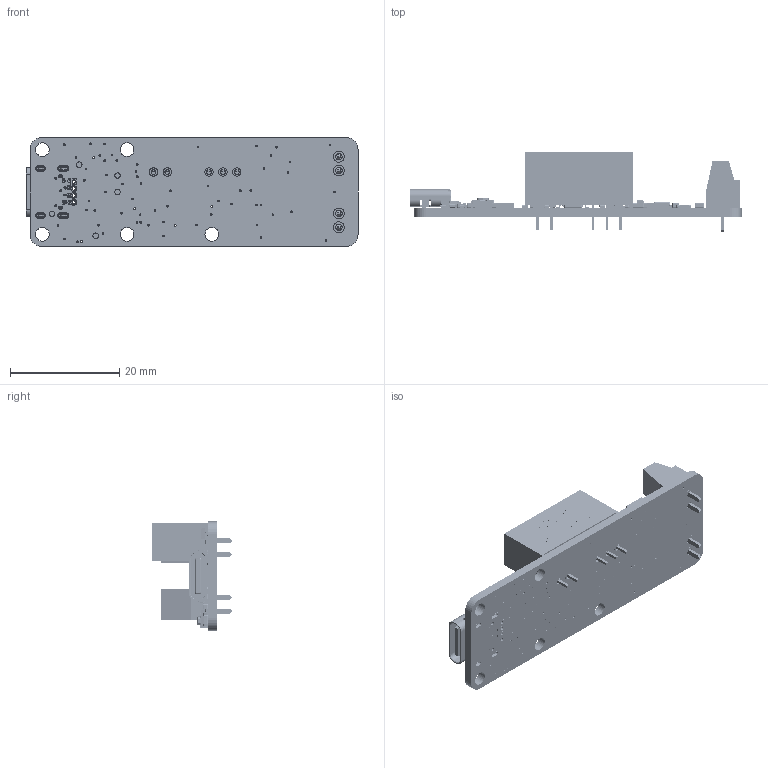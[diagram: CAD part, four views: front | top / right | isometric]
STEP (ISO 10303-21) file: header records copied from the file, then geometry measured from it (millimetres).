
FILE_DESCRIPTION (( 'STEP AP214' ), '1' );
FILE_NAME ('TX010V1C.STEP', '2025-10-10T06:00:40', ( '' ), ( '' ), 'SwSTEP 2.0', 'SolidWorks 2008', '' );
FILE_SCHEMA (( 'AUTOMOTIVE_DESIGN' ));
Length unit declared in the file: millimetre
Products named in the file (43): C2; A1; C14; C48; C24; PCB; C19; C25; IC1; R1; DAC1; P3; C18; C15; D2; C16; C21; C22; PVSS; R16; R2; Alim1; C20; L1; R13; R25; sens1; R22; R26; TX010V1C; c23; R19; R21; R18; c13; reg3; U1; YLED; SW1; REG1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
Assembly tree (68 placements, depth 2):
  PVSS
  TX010V1C
    C22  x2
    R17  x5
    R16  x4
    C16
    R19  x2
    c23
    REG1
    PCB
    sens1
    C21  x2
    DAC1
    R18  x2
    C20  x7
    C15  x2
    A1
    R1
    R25  x2
    D2  x2
    USB1
    C48  x2
    Alim1
    C25  x2
    IC1
    C2
    C14
    U1
    R21  x2
    R23  x2
    P3  x2
    C19
    c13
    R13
    R26  x2
    SW1
    R22  x2
    R2
    C18
    L1
    YLED
    C24
    reg3
Bounding box: 60.75 x 14.61 x 20 mm (x, y, z)
Volume: 3973.1 mm3; surface area: 5621.5 mm2
Topology: 77 solids, 77 shells, 8431 faces, 22133 edges, 14253 vertices
Faces by surface type: plane 5365, cylinder 1909, bspline 922, sphere 216, cone 12, torus 7
Entity records: 309533 total; most frequent: CARTESIAN_POINT 79219, ORIENTED_EDGE 35394, DIRECTION 31528, EDGE_CURVE 17697, VECTOR 13122, LINE 13122, VERTEX_POINT 11586, AXIS2_PLACEMENT_3D 9203
